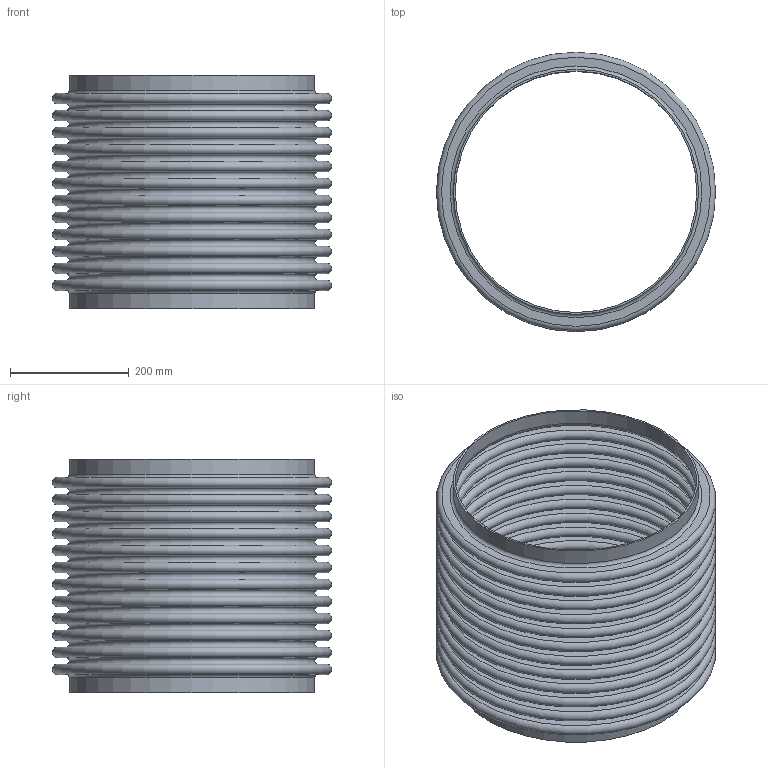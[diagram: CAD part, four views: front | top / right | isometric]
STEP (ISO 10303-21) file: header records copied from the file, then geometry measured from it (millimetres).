
FILE_DESCRIPTION(/* description */ ('STOCK BELLOWS: U.S-16-12-300L, 16.000 I.D., 18.500 O.D., 2 PLY, 16 GA (0.060 THICK), 12 CONS., 1.125 PITCH, 1.000 TANGENT. '),/* implementation_level */ '2;1');
FILE_NAME(/* name */ 'STOCK BELLOW - US-16-12-300L.stp',/* time_stamp */ '2026-07-21T13:30:33-05:00',/* author */ ('KennethB'),/* organization */ (''),/* preprocessor_version */ 'ST-DEVELOPER v20.1',/* originating_system */ 'Autodesk Inventor 2026',/* authorisation */ '');
FILE_SCHEMA (('AUTOMOTIVE_DESIGN { 1 0 10303 214 3 1 1 }'));
Length unit declared in the file: inch
Products named in the file (1): STOCK BELLOW - US-16-12-300L
Bounding box: 469.9 x 469.9 x 393.7 mm (x, y, z)
Volume: 3910435.6 mm3; surface area: 2589426.8 mm2
Topology: 3 solids, 3 shells, 108 faces, 162 edges, 109 vertices
Faces by surface type: plane 54, torus 50, cylinder 4
Full cylindrical faces by diameter (mm): 406.4 x2, 412.496 x2
Entity records: 2550 total; most frequent: DIRECTION 538, CARTESIAN_POINT 380, ORIENTED_EDGE 324, AXIS2_PLACEMENT_3D 267, EDGE_LOOP 162, EDGE_CURVE 162, CIRCLE 158, FACE_OUTER_BOUND 108
